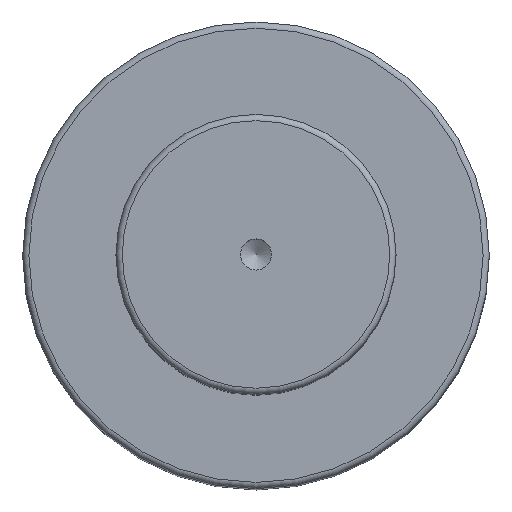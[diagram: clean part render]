
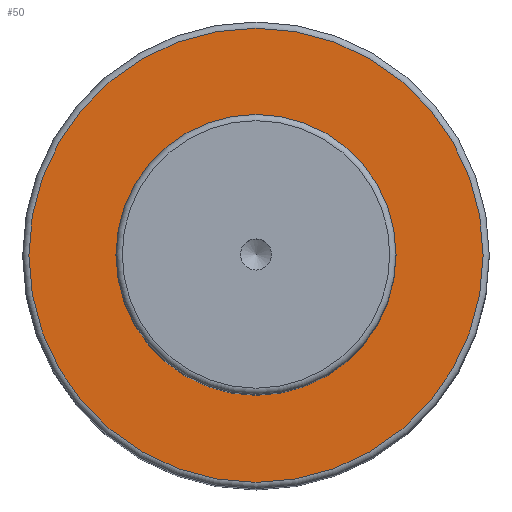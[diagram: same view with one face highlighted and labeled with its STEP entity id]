
A CAD part, top view. The second image highlights one B-rep face of the part: STEP entity #50.
In plain terms, the highlighted planar face has unit normal (0, 0, 1).
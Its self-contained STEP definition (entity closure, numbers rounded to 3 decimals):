
#40=PLANE('',#179);
#50=ADVANCED_FACE('',(#72,#73),#40,.F.);
#72=FACE_BOUND('',#96,.T.);
#73=FACE_BOUND('',#97,.T.);
#96=EDGE_LOOP('',(#118));
#97=EDGE_LOOP('',(#119));
#118=ORIENTED_EDGE('',*,*,#149,.F.);
#119=ORIENTED_EDGE('',*,*,#148,.T.);
#135=VERTEX_POINT('',#256);
#136=VERTEX_POINT('',#259);
#148=EDGE_CURVE('',#135,#135,#159,.T.);
#149=EDGE_CURVE('',#136,#136,#160,.T.);
#159=CIRCLE('',#176,22.5);
#160=CIRCLE('',#178,36.5);
#176=AXIS2_PLACEMENT_3D('',#255,#213,#214);
#178=AXIS2_PLACEMENT_3D('',#258,#217,#218);
#179=AXIS2_PLACEMENT_3D('',#260,#219,#220);
#213=DIRECTION('',(0.,0.,-1.));
#214=DIRECTION('',(-1.,0.,0.));
#217=DIRECTION('',(0.,0.,-1.));
#218=DIRECTION('',(-1.,0.,0.));
#219=DIRECTION('',(0.,0.,-1.));
#220=DIRECTION('',(-1.,0.,0.));
#255=CARTESIAN_POINT('',(0.,0.,124.));
#256=CARTESIAN_POINT('',(-22.5,0.,124.));
#258=CARTESIAN_POINT('',(0.,0.,124.));
#259=CARTESIAN_POINT('',(-36.5,0.,124.));
#260=CARTESIAN_POINT('',(22.5,0.,124.));
